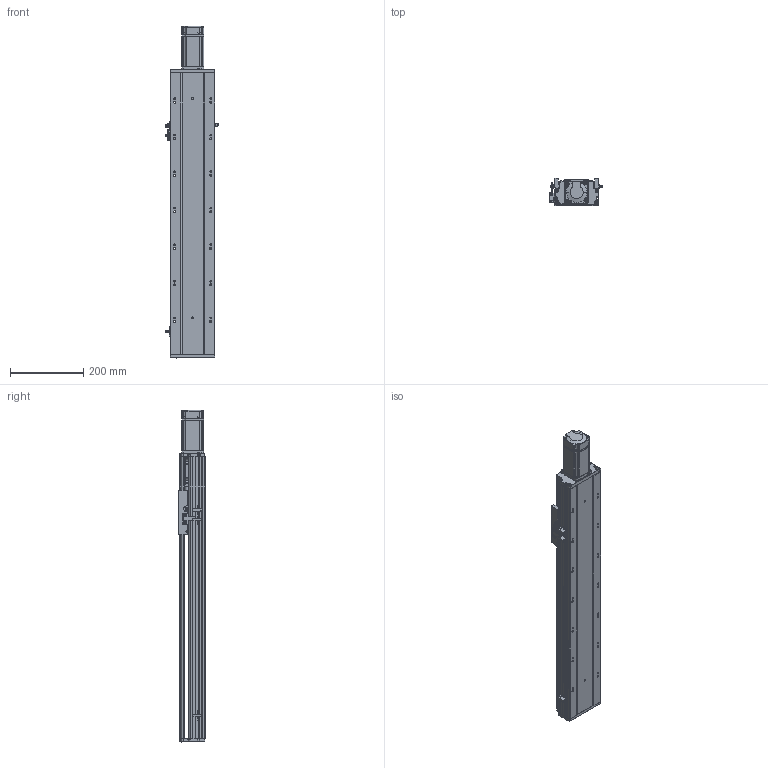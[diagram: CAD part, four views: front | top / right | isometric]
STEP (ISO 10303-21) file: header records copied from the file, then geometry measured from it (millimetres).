
FILE_DESCRIPTION (( 'STEP AP203' ), '1' );
FILE_NAME ('RYK120-L1610-S500-M40-C3-MK.STEP', '2026-03-09T06:47:13', ( '' ), ( '' ), 'SwSTEP 2.0', 'SolidWorks 2016', '' );
FILE_SCHEMA (( 'CONFIG_CONTROL_DESIGN' ));
Length unit declared in the file: millimetre
Products named in the file (17): RY120綴裔啣; 滅袉蝶18-10; RY120电机端支撑座-压铸加工-M5; 2.10.1.C521-V1.0RY120臏賑輸16蹟譫-啞-JZZY-NRL-L1899; RYK120-300-MK-菁釱-啞_500; 44-49-12-14; 覜茼ん672; 15; 侂狟400W侜督萇儂; RY120QGB-1.8; 滅袉蝶18-24; RYK120-300-MK-奻裔啣-啞_500; RY120外置感应片(140共用）; RY120-16螺母油路-集中注油组合; CB╱T 3762-1996[锥形润滑油嘴1-ZM10×1]_1-ZM10×1; RYK170-薊粣ん芵隴裔啣; RYK120-L1610-S500-M40-C3-MK
Assembly tree (21 placements, depth 3):
  RYK120-L1610-S500-M40-C3-MK
    RYK120-300-MK-菁釱-啞_500
    RYK120-300-MK-奻裔啣-啞_500
    RY120綴裔啣
    滅袉蝶18-24  x2
    滅袉蝶18-10  x2
    覜茼ん672  x3
    RY120外置感应片(140共用）
    RY120QGB-1.8
    RY120-16螺母油路-集中注油组合
      2.10.1.C521-V1.0RY120臏賑輸16蹟譫-啞-JZZY-NRL-L1899
      CB╱T 3762-1996[锥形润滑油嘴1-ZM10×1]_1-ZM10×1  x2
    RY120电机端支撑座-压铸加工-M5
    RYK170-薊粣ん芵隴裔啣
    44-49-12-14
    侂狟400W侜督萇儂
      15
Bounding box: 145.7 x 73 x 908.5 mm (x, y, z)
Volume: 2604446.3 mm3; surface area: 880806.6 mm2
Topology: 23 solids, 23 shells, 2562 faces, 7122 edges, 4565 vertices
Faces by surface type: plane 1201, cylinder 987, cone 247, bspline 127
Entity records: 85594 total; most frequent: CARTESIAN_POINT 24806, ORIENTED_EDGE 12784, DIRECTION 11675, EDGE_CURVE 6392, VERTEX_POINT 4177, AXIS2_PLACEMENT_3D 3998, LINE 3679, VECTOR 3679
